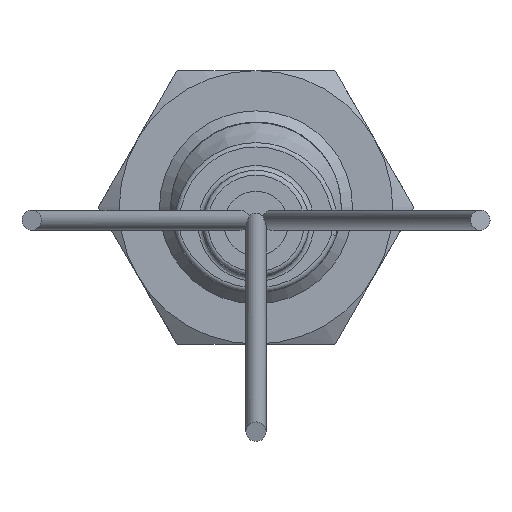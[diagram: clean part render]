
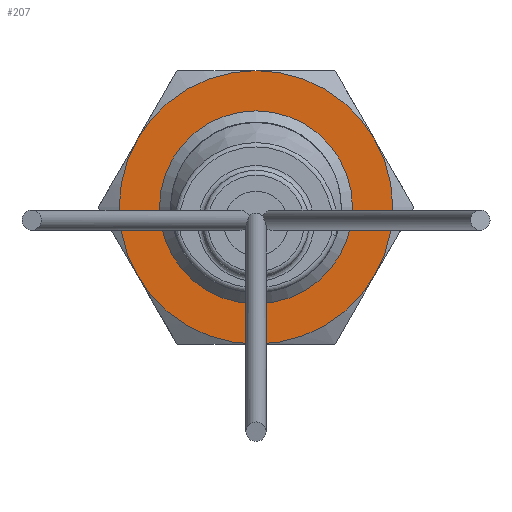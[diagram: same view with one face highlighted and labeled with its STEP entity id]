
A CAD part, left-side view. The second image highlights one B-rep face of the part: STEP entity #207.
In plain terms, the highlighted planar face has unit normal (-1, 0, 0).
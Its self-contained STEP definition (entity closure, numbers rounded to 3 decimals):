
#207 = ADVANCED_FACE( '', ( #303, #304 ), #305, .F. );
#303 = FACE_OUTER_BOUND( '', #426, .T. );
#304 = FACE_BOUND( '', #427, .T. );
#305 = PLANE( '', #428 );
#426 = EDGE_LOOP( '', ( #621, #622, #623, #624, #625, #626 ) );
#427 = EDGE_LOOP( '', ( #627 ) );
#428 = AXIS2_PLACEMENT_3D( '', #628, #629, #630 );
#621 = ORIENTED_EDGE( '', *, *, #815, .F. );
#622 = ORIENTED_EDGE( '', *, *, #816, .F. );
#623 = ORIENTED_EDGE( '', *, *, #817, .F. );
#624 = ORIENTED_EDGE( '', *, *, #818, .F. );
#625 = ORIENTED_EDGE( '', *, *, #819, .F. );
#626 = ORIENTED_EDGE( '', *, *, #820, .F. );
#627 = ORIENTED_EDGE( '', *, *, #821, .T. );
#628 = CARTESIAN_POINT( '', ( 0., 0., 0. ) );
#629 = DIRECTION( '', ( 1., 0., 0. ) );
#630 = DIRECTION( '', ( 0., 0., -1. ) );
#815 = EDGE_CURVE( '', #922, #923, #924, .T. );
#816 = EDGE_CURVE( '', #925, #922, #926, .T. );
#817 = EDGE_CURVE( '', #927, #925, #928, .T. );
#818 = EDGE_CURVE( '', #929, #927, #930, .T. );
#819 = EDGE_CURVE( '', #931, #929, #932, .T. );
#820 = EDGE_CURVE( '', #923, #931, #933, .T. );
#821 = EDGE_CURVE( '', #934, #934, #935, .T. );
#922 = VERTEX_POINT( '', #1160 );
#923 = VERTEX_POINT( '', #1161 );
#924 = CIRCLE( '', #1162, 8.5 );
#925 = VERTEX_POINT( '', #1163 );
#926 = CIRCLE( '', #1164, 8.5 );
#927 = VERTEX_POINT( '', #1165 );
#928 = CIRCLE( '', #1166, 8.5 );
#929 = VERTEX_POINT( '', #1167 );
#930 = CIRCLE( '', #1168, 8.5 );
#931 = VERTEX_POINT( '', #1169 );
#932 = CIRCLE( '', #1170, 8.5 );
#933 = CIRCLE( '', #1171, 8.5 );
#934 = VERTEX_POINT( '', #1172 );
#935 = CIRCLE( '', #1173, 6. );
#1160 = CARTESIAN_POINT( '', ( 0., 7.361, -4.25 ) );
#1161 = CARTESIAN_POINT( '', ( 0., 7.361, 4.25 ) );
#1162 = AXIS2_PLACEMENT_3D( '', #1454, #1455, #1456 );
#1163 = CARTESIAN_POINT( '', ( 0., 0., -8.5 ) );
#1164 = AXIS2_PLACEMENT_3D( '', #1457, #1458, #1459 );
#1165 = CARTESIAN_POINT( '', ( 0., -7.361, -4.25 ) );
#1166 = AXIS2_PLACEMENT_3D( '', #1460, #1461, #1462 );
#1167 = CARTESIAN_POINT( '', ( 0., -7.361, 4.25 ) );
#1168 = AXIS2_PLACEMENT_3D( '', #1463, #1464, #1465 );
#1169 = CARTESIAN_POINT( '', ( 0., 0., 8.5 ) );
#1170 = AXIS2_PLACEMENT_3D( '', #1466, #1467, #1468 );
#1171 = AXIS2_PLACEMENT_3D( '', #1469, #1470, #1471 );
#1172 = CARTESIAN_POINT( '', ( 0., 0., -6. ) );
#1173 = AXIS2_PLACEMENT_3D( '', #1472, #1473, #1474 );
#1454 = CARTESIAN_POINT( '', ( 0., 0., 0. ) );
#1455 = DIRECTION( '', ( 1., 0., 0. ) );
#1456 = DIRECTION( '', ( 0., 0., -1. ) );
#1457 = CARTESIAN_POINT( '', ( 0., 0., 0. ) );
#1458 = DIRECTION( '', ( 1., 0., 0. ) );
#1459 = DIRECTION( '', ( 0., 0., -1. ) );
#1460 = CARTESIAN_POINT( '', ( 0., 0., 0. ) );
#1461 = DIRECTION( '', ( 1., 0., 0. ) );
#1462 = DIRECTION( '', ( 0., 0., -1. ) );
#1463 = CARTESIAN_POINT( '', ( 0., 0., 0. ) );
#1464 = DIRECTION( '', ( 1., 0., 0. ) );
#1465 = DIRECTION( '', ( 0., 0., -1. ) );
#1466 = CARTESIAN_POINT( '', ( 0., 0., 0. ) );
#1467 = DIRECTION( '', ( 1., 0., 0. ) );
#1468 = DIRECTION( '', ( 0., 0., -1. ) );
#1469 = CARTESIAN_POINT( '', ( 0., 0., 0. ) );
#1470 = DIRECTION( '', ( 1., 0., 0. ) );
#1471 = DIRECTION( '', ( 0., 0., -1. ) );
#1472 = CARTESIAN_POINT( '', ( 0., 0., 0. ) );
#1473 = DIRECTION( '', ( 1., 0., 0. ) );
#1474 = DIRECTION( '', ( 0., 0., -1. ) );
